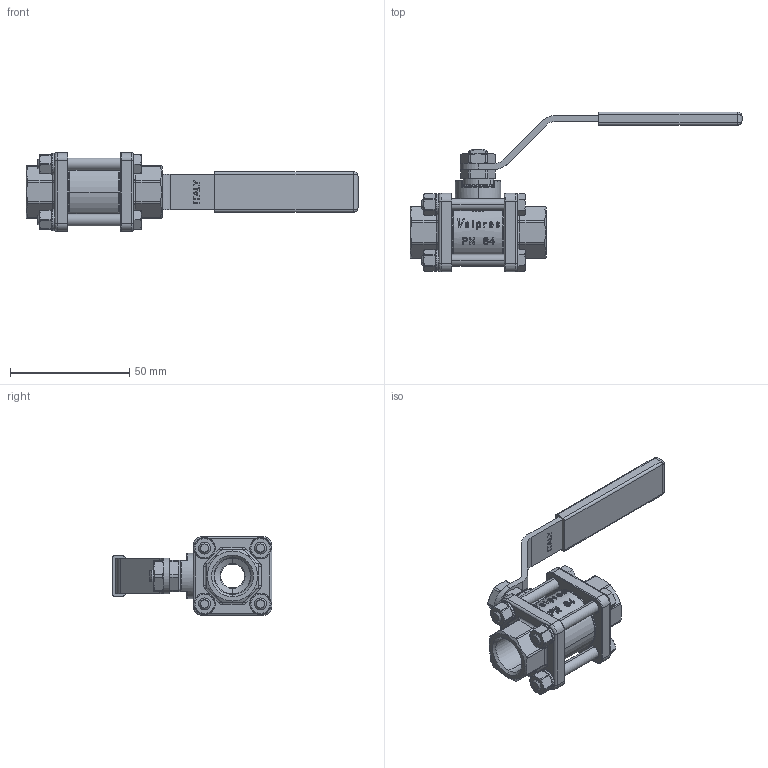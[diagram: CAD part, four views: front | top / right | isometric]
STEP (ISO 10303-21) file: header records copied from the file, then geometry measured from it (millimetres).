
FILE_DESCRIPTION (( 'STEP AP203' ), '1' );
FILE_NAME ('71000003.STEP', '2010-11-13T10:39:58', ( '.' ), ( '.' ), 'SwSTEP 2.0', 'SolidWorks 2008', '' );
FILE_SCHEMA (( 'CONFIG_CONTROL_DESIGN' ));
Products named in the file (1): 71000003
Bounding box: 139 x 66.95 x 33 mm (x, y, z)
Volume: 43849.9 mm3; surface area: 26671.4 mm2
Topology: 6 solids, 6 shells, 1176 faces, 3037 edges, 1894 vertices
Faces by surface type: plane 365, bspline 324, cylinder 298, cone 189
Entity records: 69534 total; most frequent: CARTESIAN_POINT 43220, ORIENTED_EDGE 6046, DIRECTION 4711, EDGE_CURVE 3023, VERTEX_POINT 1894, AXIS2_PLACEMENT_3D 1783, EDGE_LOOP 1289, ADVANCED_FACE 1176
